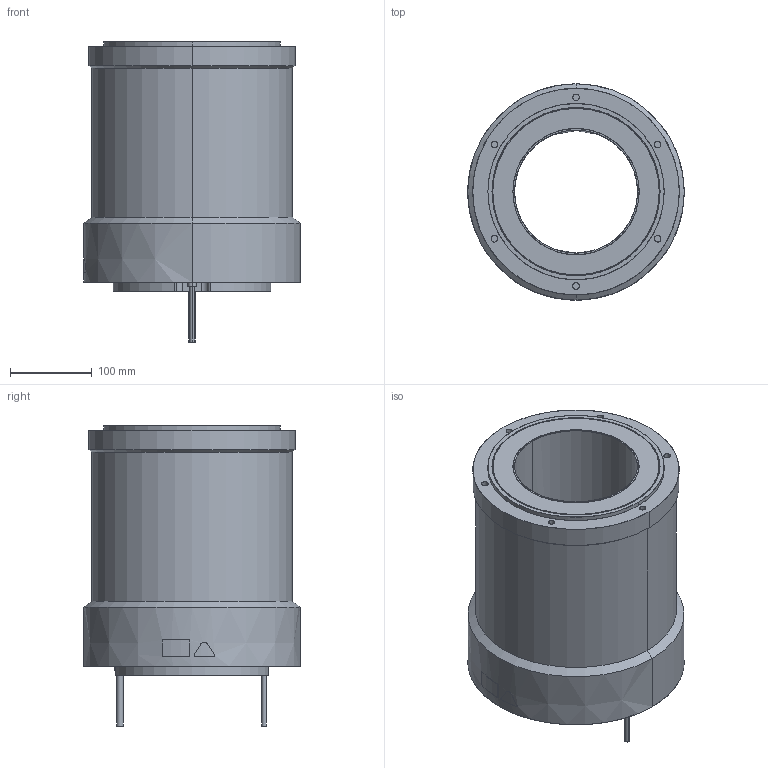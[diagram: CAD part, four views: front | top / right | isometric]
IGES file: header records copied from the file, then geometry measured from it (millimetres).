
Start section: SolidWorks IGES file using analytic representation for surfaces
Bounding box: 264.08 x 264 x 366 mm (x, y, z)
Surface area: 471274.6 mm2 (no closed solid volume)
Topology: 0 solids, 0 shells, 171 faces, 3659 edges, 3659 vertices
Faces by surface type: revolution 107, bspline 64
